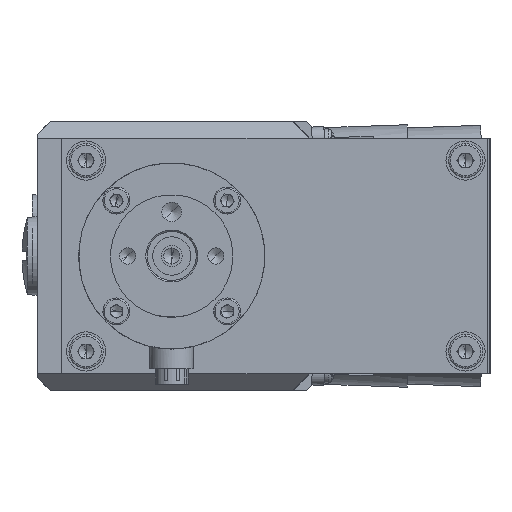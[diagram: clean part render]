
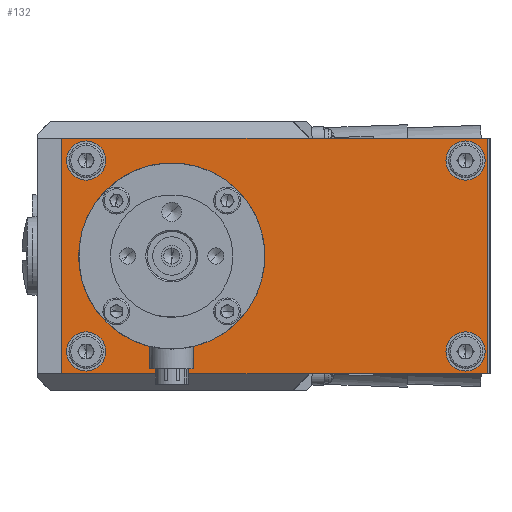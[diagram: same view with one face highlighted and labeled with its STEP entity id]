
A CAD part, left-side view. The second image highlights one B-rep face of the part: STEP entity #132.
In plain terms, the highlighted planar face has unit normal (-1, 0, 0).
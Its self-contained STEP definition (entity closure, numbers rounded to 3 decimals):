
#132 = ADVANCED_FACE ( 'NONE', ( #27998, #5159, #41457, #14597, #19418, #38345 ), #32195, .F. ) ;
#464 = CIRCLE ( 'NONE', #8717, 4. ) ;
#746 = CIRCLE ( 'NONE', #64189, 4. ) ;
#1040 = EDGE_CURVE ( 'NONE', #50672, #48714, #20108, .T. ) ;
#1765 = EDGE_CURVE ( 'NONE', #4988, #42911, #49975, .T. ) ;
#1989 = DIRECTION ( 'NONE',  ( 1., 0., 0. ) ) ;
#1998 = VERTEX_POINT ( 'NONE', #17921 ) ;
#2219 = DIRECTION ( 'NONE',  ( 0., 0., -1. ) ) ;
#3163 = DIRECTION ( 'NONE',  ( 0., 0., 1. ) ) ;
#4923 = CARTESIAN_POINT ( 'NONE',  ( -106.001, 59.379, 45.682 ) ) ;
#4988 = VERTEX_POINT ( 'NONE', #11378 ) ;
#5159 = FACE_BOUND ( 'NONE', #36478, .T. ) ;
#5488 = CARTESIAN_POINT ( 'NONE',  ( -106.001, -23.121, 45.182 ) ) ;
#6197 = AXIS2_PLACEMENT_3D ( 'NONE', #65250, #59238, #59909 ) ;
#6448 = ORIENTED_EDGE ( 'NONE', *, *, #1765, .F. ) ;
#6822 = ORIENTED_EDGE ( 'NONE', *, *, #50105, .F. ) ;
#7015 = EDGE_LOOP ( 'NONE', ( #55517, #6822 ) ) ;
#7835 = ORIENTED_EDGE ( 'NONE', *, *, #23092, .F. ) ;
#8717 = AXIS2_PLACEMENT_3D ( 'NONE', #53852, #23225, #3163 ) ;
#8729 = CARTESIAN_POINT ( 'NONE',  ( -106.001, 54.379, -1.818 ) ) ;
#9125 = DIRECTION ( 'NONE',  ( 0., 1., 0. ) ) ;
#9234 = CARTESIAN_POINT ( 'NONE',  ( -106.001, 59.379, -2.318 ) ) ;
#9499 = LINE ( 'NONE', #12154, #21340 ) ;
#9810 = VERTEX_POINT ( 'NONE', #20170 ) ;
#11371 = CIRCLE ( 'NONE', #32410, 4. ) ;
#11378 = CARTESIAN_POINT ( 'NONE',  ( -106.001, 54.379, 45.182 ) ) ;
#11768 = EDGE_CURVE ( 'NONE', #22416, #50672, #21502, .T. ) ;
#11918 = CARTESIAN_POINT ( 'NONE',  ( -106.001, -23.121, 2.182 ) ) ;
#12154 = CARTESIAN_POINT ( 'NONE',  ( -106.001, -27.621, 45.682 ) ) ;
#13013 = VECTOR ( 'NONE', #9125, 1000. ) ;
#14597 = FACE_BOUND ( 'NONE', #55120, .T. ) ;
#15828 = VERTEX_POINT ( 'NONE', #5488 ) ;
#15837 = CARTESIAN_POINT ( 'NONE',  ( -106.001, 59.379, 45.682 ) ) ;
#16251 = EDGE_CURVE ( 'NONE', #15828, #28549, #34466, .T. ) ;
#16633 = DIRECTION ( 'NONE',  ( 0., 0., 1. ) ) ;
#17648 = DIRECTION ( 'NONE',  ( -1., 0., 0. ) ) ;
#17921 = CARTESIAN_POINT ( 'NONE',  ( -106.001, -23.121, 6.182 ) ) ;
#18180 = AXIS2_PLACEMENT_3D ( 'NONE', #55241, #20433, #29683 ) ;
#18530 = VECTOR ( 'NONE', #53855, 1000. ) ;
#18599 = CARTESIAN_POINT ( 'NONE',  ( -106.001, -27.621, -2.318 ) ) ;
#19418 = FACE_BOUND ( 'NONE', #23595, .T. ) ;
#19929 = AXIS2_PLACEMENT_3D ( 'NONE', #30954, #31379, #36495 ) ;
#19993 = VERTEX_POINT ( 'NONE', #32848 ) ;
#20108 = LINE ( 'NONE', #18599, #18530 ) ;
#20170 = CARTESIAN_POINT ( 'NONE',  ( -106.001, 36.879, 37.182 ) ) ;
#20433 = DIRECTION ( 'NONE',  ( -1., 0., 0. ) ) ;
#20570 = DIRECTION ( 'NONE',  ( -1., 0., 0. ) ) ;
#20618 = ORIENTED_EDGE ( 'NONE', *, *, #23872, .T. ) ;
#21308 = ORIENTED_EDGE ( 'NONE', *, *, #1040, .T. ) ;
#21340 = VECTOR ( 'NONE', #22933, 1000. ) ;
#21502 = LINE ( 'NONE', #9234, #49083 ) ;
#22416 = VERTEX_POINT ( 'NONE', #15837 ) ;
#22889 = ORIENTED_EDGE ( 'NONE', *, *, #65331, .F. ) ;
#22933 = DIRECTION ( 'NONE',  ( 0., 0., 1. ) ) ;
#22973 = CARTESIAN_POINT ( 'NONE',  ( -106.001, -27.621, 45.682 ) ) ;
#23092 = EDGE_CURVE ( 'NONE', #1998, #19993, #464, .T. ) ;
#23225 = DIRECTION ( 'NONE',  ( -1., 0., 0. ) ) ;
#23595 = EDGE_LOOP ( 'NONE', ( #22889, #64476 ) ) ;
#23700 = ORIENTED_EDGE ( 'NONE', *, *, #62270, .F. ) ;
#23872 = EDGE_CURVE ( 'NONE', #28906, #22416, #28748, .T. ) ;
#24946 = CARTESIAN_POINT ( 'NONE',  ( -106.001, 54.379, 6.182 ) ) ;
#25553 = AXIS2_PLACEMENT_3D ( 'NONE', #11918, #17648, #37935 ) ;
#26047 = ORIENTED_EDGE ( 'NONE', *, *, #46670, .T. ) ;
#27987 = VERTEX_POINT ( 'NONE', #24946 ) ;
#27998 = FACE_BOUND ( 'NONE', #7015, .T. ) ;
#28549 = VERTEX_POINT ( 'NONE', #40465 ) ;
#28694 = DIRECTION ( 'NONE',  ( -1., 0., 0. ) ) ;
#28748 = LINE ( 'NONE', #4923, #13013 ) ;
#28906 = VERTEX_POINT ( 'NONE', #22973 ) ;
#29683 = DIRECTION ( 'NONE',  ( 0., 0., 1. ) ) ;
#29787 = DIRECTION ( 'NONE',  ( -1., 0., 0. ) ) ;
#30429 = EDGE_CURVE ( 'NONE', #27987, #62909, #11371, .T. ) ;
#30954 = CARTESIAN_POINT ( 'NONE',  ( -106.001, 54.379, 41.182 ) ) ;
#31137 = DIRECTION ( 'NONE',  ( 0., 0., 1. ) ) ;
#31379 = DIRECTION ( 'NONE',  ( -1., 0., 0. ) ) ;
#31791 = CARTESIAN_POINT ( 'NONE',  ( -106.001, -27.621, -2.318 ) ) ;
#32195 = PLANE ( 'NONE',  #57006 ) ;
#32410 = AXIS2_PLACEMENT_3D ( 'NONE', #49864, #28694, #64041 ) ;
#32441 = VERTEX_POINT ( 'NONE', #38483 ) ;
#32848 = CARTESIAN_POINT ( 'NONE',  ( -106.001, -23.121, -1.818 ) ) ;
#33205 = EDGE_LOOP ( 'NONE', ( #6448, #35296 ) ) ;
#34466 = CIRCLE ( 'NONE', #6197, 4. ) ;
#34470 = CARTESIAN_POINT ( 'NONE',  ( -106.001, 54.379, 41.182 ) ) ;
#35296 = ORIENTED_EDGE ( 'NONE', *, *, #53963, .F. ) ;
#35802 = CIRCLE ( 'NONE', #18180, 15.5 ) ;
#36478 = EDGE_LOOP ( 'NONE', ( #7835, #23700 ) ) ;
#36495 = DIRECTION ( 'NONE',  ( 0., 0., 1. ) ) ;
#37307 = CARTESIAN_POINT ( 'NONE',  ( -106.001, -27.621, -2.318 ) ) ;
#37935 = DIRECTION ( 'NONE',  ( 0., 0., 1. ) ) ;
#38345 = FACE_OUTER_BOUND ( 'NONE', #56020, .T. ) ;
#38483 = CARTESIAN_POINT ( 'NONE',  ( -106.001, 36.879, 6.182 ) ) ;
#38849 = CIRCLE ( 'NONE', #40611, 15.5 ) ;
#39010 = DIRECTION ( 'NONE',  ( -1., 0., 0. ) ) ;
#39236 = CARTESIAN_POINT ( 'NONE',  ( -106.001, 36.879, 21.682 ) ) ;
#40465 = CARTESIAN_POINT ( 'NONE',  ( -106.001, -23.121, 37.182 ) ) ;
#40611 = AXIS2_PLACEMENT_3D ( 'NONE', #39236, #39010, #49130 ) ;
#41457 = FACE_BOUND ( 'NONE', #33205, .T. ) ;
#42043 = CARTESIAN_POINT ( 'NONE',  ( -106.001, -23.121, 41.182 ) ) ;
#42575 = AXIS2_PLACEMENT_3D ( 'NONE', #34470, #29787, #65137 ) ;
#42911 = VERTEX_POINT ( 'NONE', #53172 ) ;
#45810 = ORIENTED_EDGE ( 'NONE', *, *, #55210, .F. ) ;
#46252 = CIRCLE ( 'NONE', #52908, 4. ) ;
#46670 = EDGE_CURVE ( 'NONE', #48714, #28906, #9499, .T. ) ;
#48714 = VERTEX_POINT ( 'NONE', #31791 ) ;
#49083 = VECTOR ( 'NONE', #59954, 1000. ) ;
#49130 = DIRECTION ( 'NONE',  ( 0., 0., 1. ) ) ;
#49864 = CARTESIAN_POINT ( 'NONE',  ( -106.001, 54.379, 2.182 ) ) ;
#49975 = CIRCLE ( 'NONE', #19929, 4. ) ;
#50105 = EDGE_CURVE ( 'NONE', #62909, #27987, #46252, .T. ) ;
#50672 = VERTEX_POINT ( 'NONE', #55887 ) ;
#52908 = AXIS2_PLACEMENT_3D ( 'NONE', #60708, #20570, #31137 ) ;
#53172 = CARTESIAN_POINT ( 'NONE',  ( -106.001, 54.379, 37.182 ) ) ;
#53397 = CIRCLE ( 'NONE', #25553, 4. ) ;
#53852 = CARTESIAN_POINT ( 'NONE',  ( -106.001, -23.121, 2.182 ) ) ;
#53855 = DIRECTION ( 'NONE',  ( 0., -1., 0. ) ) ;
#53940 = ORIENTED_EDGE ( 'NONE', *, *, #11768, .T. ) ;
#53963 = EDGE_CURVE ( 'NONE', #42911, #4988, #59184, .T. ) ;
#55120 = EDGE_LOOP ( 'NONE', ( #64450, #45810 ) ) ;
#55210 = EDGE_CURVE ( 'NONE', #28549, #15828, #746, .T. ) ;
#55241 = CARTESIAN_POINT ( 'NONE',  ( -106.001, 36.879, 21.682 ) ) ;
#55517 = ORIENTED_EDGE ( 'NONE', *, *, #30429, .F. ) ;
#55887 = CARTESIAN_POINT ( 'NONE',  ( -106.001, 59.379, -2.318 ) ) ;
#56020 = EDGE_LOOP ( 'NONE', ( #26047, #20618, #53940, #21308 ) ) ;
#56896 = EDGE_CURVE ( 'NONE', #32441, #9810, #35802, .T. ) ;
#57006 = AXIS2_PLACEMENT_3D ( 'NONE', #37307, #1989, #2219 ) ;
#57187 = DIRECTION ( 'NONE',  ( -1., 0., 0. ) ) ;
#59184 = CIRCLE ( 'NONE', #42575, 4. ) ;
#59238 = DIRECTION ( 'NONE',  ( -1., 0., 0. ) ) ;
#59909 = DIRECTION ( 'NONE',  ( 0., 0., 1. ) ) ;
#59954 = DIRECTION ( 'NONE',  ( 0., 0., -1. ) ) ;
#60708 = CARTESIAN_POINT ( 'NONE',  ( -106.001, 54.379, 2.182 ) ) ;
#62270 = EDGE_CURVE ( 'NONE', #19993, #1998, #53397, .T. ) ;
#62909 = VERTEX_POINT ( 'NONE', #8729 ) ;
#64041 = DIRECTION ( 'NONE',  ( 0., 0., 1. ) ) ;
#64189 = AXIS2_PLACEMENT_3D ( 'NONE', #42043, #57187, #16633 ) ;
#64450 = ORIENTED_EDGE ( 'NONE', *, *, #16251, .F. ) ;
#64476 = ORIENTED_EDGE ( 'NONE', *, *, #56896, .F. ) ;
#65137 = DIRECTION ( 'NONE',  ( 0., 0., 1. ) ) ;
#65250 = CARTESIAN_POINT ( 'NONE',  ( -106.001, -23.121, 41.182 ) ) ;
#65331 = EDGE_CURVE ( 'NONE', #9810, #32441, #38849, .T. ) ;
